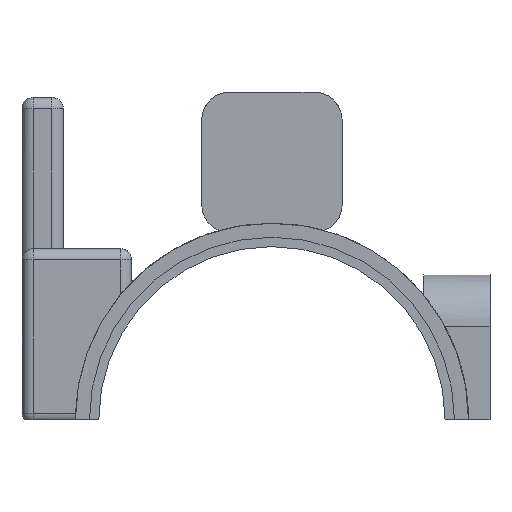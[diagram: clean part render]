
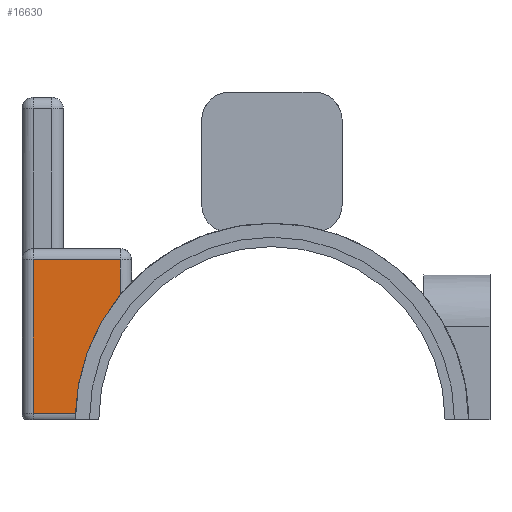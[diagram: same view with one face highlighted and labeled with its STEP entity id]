
A CAD part, left-side view. The second image highlights one B-rep face of the part: STEP entity #16630.
In plain terms, the highlighted planar face has unit normal (-1, 0, 0).
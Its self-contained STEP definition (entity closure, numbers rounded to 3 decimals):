
#79 = CYLINDRICAL_SURFACE('',#80,21.);
#80 = AXIS2_PLACEMENT_3D('',#81,#82,#83);
#81 = CARTESIAN_POINT('',(20.,0.,0.));
#82 = DIRECTION('',(1.,0.,0.));
#83 = DIRECTION('',(0.,0.,-1.));
#1559 = VERTEX_POINT('',#1560);
#1560 = CARTESIAN_POINT('',(20.8,16.2,13.363));
#1608 = CYLINDRICAL_SURFACE('',#1609,1.2);
#1609 = AXIS2_PLACEMENT_3D('',#1610,#1611,#1612);
#1610 = CARTESIAN_POINT('',(22.,16.2,-0.5));
#1611 = DIRECTION('',(0.,0.,1.));
#1612 = DIRECTION('',(-1.,-0.,0.));
#1637 = EDGE_CURVE('',#1638,#1559,#1640,.T.);
#1638 = VERTEX_POINT('',#1639);
#1639 = CARTESIAN_POINT('',(20.8,20.988,0.7));
#1640 = SURFACE_CURVE('',#1641,(#1646,#1653),.PCURVE_S1.);
#1641 = CIRCLE('',#1642,21.);
#1642 = AXIS2_PLACEMENT_3D('',#1643,#1644,#1645);
#1643 = CARTESIAN_POINT('',(20.8,0.,0.));
#1644 = DIRECTION('',(1.,0.,0.));
#1645 = DIRECTION('',(0.,0.,-1.));
#1646 = PCURVE('',#79,#1647);
#1647 = DEFINITIONAL_REPRESENTATION('',(#1648),#1652);
#1648 = LINE('',#1649,#1650);
#1649 = CARTESIAN_POINT('',(0.,0.8));
#1650 = VECTOR('',#1651,1.);
#1651 = DIRECTION('',(1.,0.));
#1652 = ( GEOMETRIC_REPRESENTATION_CONTEXT(2) 
PARAMETRIC_REPRESENTATION_CONTEXT() REPRESENTATION_CONTEXT('2D SPACE',''
  ) );
#1653 = PCURVE('',#1654,#1659);
#1654 = PLANE('',#1655);
#1655 = AXIS2_PLACEMENT_3D('',#1656,#1657,#1658);
#1656 = CARTESIAN_POINT('',(20.8,15.,-0.5));
#1657 = DIRECTION('',(1.,0.,-0.));
#1658 = DIRECTION('',(0.,0.,1.));
#1659 = DEFINITIONAL_REPRESENTATION('',(#1660),#1664);
#1660 = CIRCLE('',#1661,21.);
#1661 = AXIS2_PLACEMENT_2D('',#1662,#1663);
#1662 = CARTESIAN_POINT('',(0.5,15.));
#1663 = DIRECTION('',(-1.,0.));
#1664 = ( GEOMETRIC_REPRESENTATION_CONTEXT(2) 
PARAMETRIC_REPRESENTATION_CONTEXT() REPRESENTATION_CONTEXT('2D SPACE',''
  ) );
#1696 = CYLINDRICAL_SURFACE('',#1697,1.2);
#1697 = AXIS2_PLACEMENT_3D('',#1698,#1699,#1700);
#1698 = CARTESIAN_POINT('',(22.,15.,0.7));
#1699 = DIRECTION('',(-0.,1.,0.));
#1700 = DIRECTION('',(-1.,-0.,0.));
#11947 = CYLINDRICAL_SURFACE('',#11948,1.2);
#11948 = AXIS2_PLACEMENT_3D('',#11949,#11950,#11951);
#11949 = CARTESIAN_POINT('',(22.,25.5,-0.5));
#11950 = DIRECTION('',(0.,0.,1.));
#11951 = DIRECTION('',(-1.,-0.,0.));
#13377 = CYLINDRICAL_SURFACE('',#13378,1.2);
#13378 = AXIS2_PLACEMENT_3D('',#13379,#13380,#13381);
#13379 = CARTESIAN_POINT('',(22.,15.,17.1));
#13380 = DIRECTION('',(-0.,1.,0.));
#13381 = DIRECTION('',(-1.,-0.,0.));
#13897 = VERTEX_POINT('',#13898);
#13898 = CARTESIAN_POINT('',(20.8,16.2,17.1));
#14046 = VERTEX_POINT('',#14047);
#14047 = CARTESIAN_POINT('',(20.8,25.5,17.1));
#14074 = EDGE_CURVE('',#13897,#14046,#14075,.T.);
#14075 = SURFACE_CURVE('',#14076,(#14080,#14087),.PCURVE_S1.);
#14076 = LINE('',#14077,#14078);
#14077 = CARTESIAN_POINT('',(20.8,15.,17.1));
#14078 = VECTOR('',#14079,1.);
#14079 = DIRECTION('',(-0.,1.,0.));
#14080 = PCURVE('',#13377,#14081);
#14081 = DEFINITIONAL_REPRESENTATION('',(#14082),#14086);
#14082 = LINE('',#14083,#14084);
#14083 = CARTESIAN_POINT('',(0.,0.));
#14084 = VECTOR('',#14085,1.);
#14085 = DIRECTION('',(0.,1.));
#14086 = ( GEOMETRIC_REPRESENTATION_CONTEXT(2) 
PARAMETRIC_REPRESENTATION_CONTEXT() REPRESENTATION_CONTEXT('2D SPACE',''
  ) );
#14087 = PCURVE('',#1654,#14088);
#14088 = DEFINITIONAL_REPRESENTATION('',(#14089),#14093);
#14089 = LINE('',#14090,#14091);
#14090 = CARTESIAN_POINT('',(17.6,0.));
#14091 = VECTOR('',#14092,1.);
#14092 = DIRECTION('',(0.,-1.));
#14093 = ( GEOMETRIC_REPRESENTATION_CONTEXT(2) 
PARAMETRIC_REPRESENTATION_CONTEXT() REPRESENTATION_CONTEXT('2D SPACE',''
  ) );
#14459 = EDGE_CURVE('',#14460,#14046,#14462,.T.);
#14460 = VERTEX_POINT('',#14461);
#14461 = CARTESIAN_POINT('',(20.8,25.5,0.7));
#14462 = SURFACE_CURVE('',#14463,(#14467,#14474),.PCURVE_S1.);
#14463 = LINE('',#14464,#14465);
#14464 = CARTESIAN_POINT('',(20.8,25.5,-0.5));
#14465 = VECTOR('',#14466,1.);
#14466 = DIRECTION('',(0.,0.,1.));
#14467 = PCURVE('',#11947,#14468);
#14468 = DEFINITIONAL_REPRESENTATION('',(#14469),#14473);
#14469 = LINE('',#14470,#14471);
#14470 = CARTESIAN_POINT('',(-0.,0.));
#14471 = VECTOR('',#14472,1.);
#14472 = DIRECTION('',(-0.,1.));
#14473 = ( GEOMETRIC_REPRESENTATION_CONTEXT(2) 
PARAMETRIC_REPRESENTATION_CONTEXT() REPRESENTATION_CONTEXT('2D SPACE',''
  ) );
#14474 = PCURVE('',#1654,#14475);
#14475 = DEFINITIONAL_REPRESENTATION('',(#14476),#14480);
#14476 = LINE('',#14477,#14478);
#14477 = CARTESIAN_POINT('',(0.,-10.5));
#14478 = VECTOR('',#14479,1.);
#14479 = DIRECTION('',(1.,0.));
#14480 = ( GEOMETRIC_REPRESENTATION_CONTEXT(2) 
PARAMETRIC_REPRESENTATION_CONTEXT() REPRESENTATION_CONTEXT('2D SPACE',''
  ) );
#16607 = EDGE_CURVE('',#1559,#13897,#16608,.T.);
#16608 = SURFACE_CURVE('',#16609,(#16613,#16620),.PCURVE_S1.);
#16609 = LINE('',#16610,#16611);
#16610 = CARTESIAN_POINT('',(20.8,16.2,-0.5));
#16611 = VECTOR('',#16612,1.);
#16612 = DIRECTION('',(0.,0.,1.));
#16613 = PCURVE('',#1608,#16614);
#16614 = DEFINITIONAL_REPRESENTATION('',(#16615),#16619);
#16615 = LINE('',#16616,#16617);
#16616 = CARTESIAN_POINT('',(0.,0.));
#16617 = VECTOR('',#16618,1.);
#16618 = DIRECTION('',(0.,1.));
#16619 = ( GEOMETRIC_REPRESENTATION_CONTEXT(2) 
PARAMETRIC_REPRESENTATION_CONTEXT() REPRESENTATION_CONTEXT('2D SPACE',''
  ) );
#16620 = PCURVE('',#1654,#16621);
#16621 = DEFINITIONAL_REPRESENTATION('',(#16622),#16626);
#16622 = LINE('',#16623,#16624);
#16623 = CARTESIAN_POINT('',(0.,-1.2));
#16624 = VECTOR('',#16625,1.);
#16625 = DIRECTION('',(1.,0.));
#16626 = ( GEOMETRIC_REPRESENTATION_CONTEXT(2) 
PARAMETRIC_REPRESENTATION_CONTEXT() REPRESENTATION_CONTEXT('2D SPACE',''
  ) );
#16630 = ADVANCED_FACE('',(#16631),#1654,.F.);
#16631 = FACE_BOUND('',#16632,.F.);
#16632 = EDGE_LOOP('',(#16633,#16634,#16635,#16656,#16657));
#16633 = ORIENTED_EDGE('',*,*,#16607,.F.);
#16634 = ORIENTED_EDGE('',*,*,#1637,.F.);
#16635 = ORIENTED_EDGE('',*,*,#16636,.T.);
#16636 = EDGE_CURVE('',#1638,#14460,#16637,.T.);
#16637 = SURFACE_CURVE('',#16638,(#16642,#16649),.PCURVE_S1.);
#16638 = LINE('',#16639,#16640);
#16639 = CARTESIAN_POINT('',(20.8,15.,0.7));
#16640 = VECTOR('',#16641,1.);
#16641 = DIRECTION('',(-0.,1.,0.));
#16642 = PCURVE('',#1654,#16643);
#16643 = DEFINITIONAL_REPRESENTATION('',(#16644),#16648);
#16644 = LINE('',#16645,#16646);
#16645 = CARTESIAN_POINT('',(1.2,0.));
#16646 = VECTOR('',#16647,1.);
#16647 = DIRECTION('',(0.,-1.));
#16648 = ( GEOMETRIC_REPRESENTATION_CONTEXT(2) 
PARAMETRIC_REPRESENTATION_CONTEXT() REPRESENTATION_CONTEXT('2D SPACE',''
  ) );
#16649 = PCURVE('',#1696,#16650);
#16650 = DEFINITIONAL_REPRESENTATION('',(#16651),#16655);
#16651 = LINE('',#16652,#16653);
#16652 = CARTESIAN_POINT('',(-0.,0.));
#16653 = VECTOR('',#16654,1.);
#16654 = DIRECTION('',(-0.,1.));
#16655 = ( GEOMETRIC_REPRESENTATION_CONTEXT(2) 
PARAMETRIC_REPRESENTATION_CONTEXT() REPRESENTATION_CONTEXT('2D SPACE',''
  ) );
#16656 = ORIENTED_EDGE('',*,*,#14459,.T.);
#16657 = ORIENTED_EDGE('',*,*,#14074,.F.);
